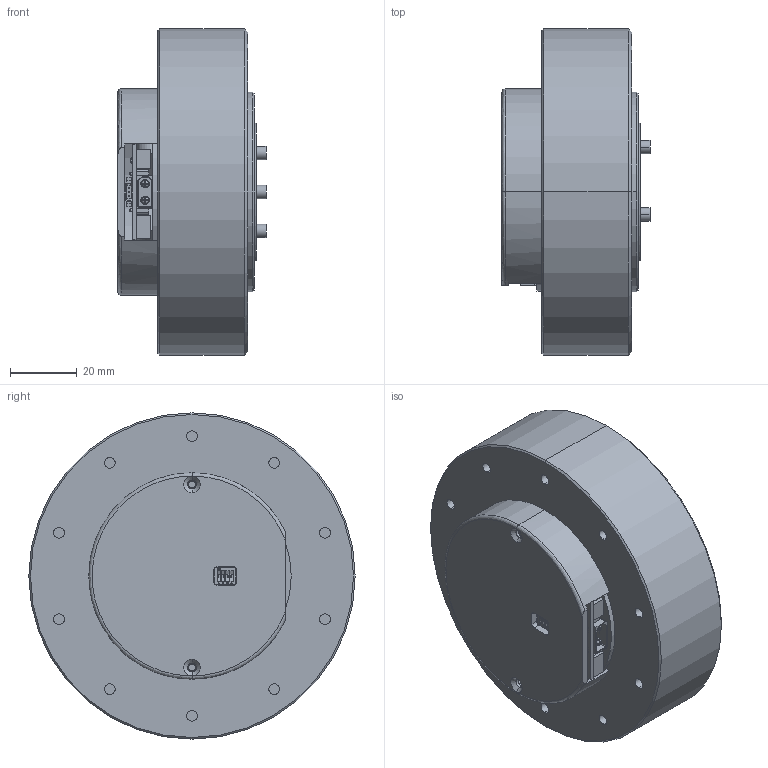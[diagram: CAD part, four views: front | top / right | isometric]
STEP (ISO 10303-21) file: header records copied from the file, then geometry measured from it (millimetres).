
FILE_DESCRIPTION (( 'STEP AP214' ), '1' );
FILE_NAME ('MG8008-i9.STEP', '2022-12-12T12:17:49', ( '' ), ( '' ), 'SwSTEP 2.0', 'SolidWorks 2020', '' );
FILE_SCHEMA (( 'AUTOMOTIVE_DESIGN' ));
Length unit declared in the file: millimetre
Products named in the file (1): MG8008-i9
Bounding box: 44.5 x 98 x 98 mm (x, y, z)
Volume: 217818.9 mm3; surface area: 45831.7 mm2
Topology: 27 solids, 27 shells, 1694 faces, 4312 edges, 2808 vertices
Faces by surface type: plane 1092, cylinder 464, bspline 90, cone 44, torus 4
Entity records: 75385 total; most frequent: CARTESIAN_POINT 15253, ORIENTED_EDGE 8584, DIRECTION 8337, EDGE_CURVE 4292, VECTOR 3015, LINE 3015, VERTEX_POINT 2808, AXIS2_PLACEMENT_3D 2661
